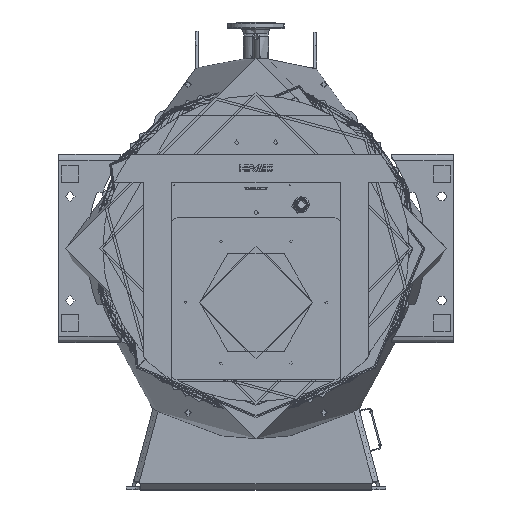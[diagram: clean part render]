
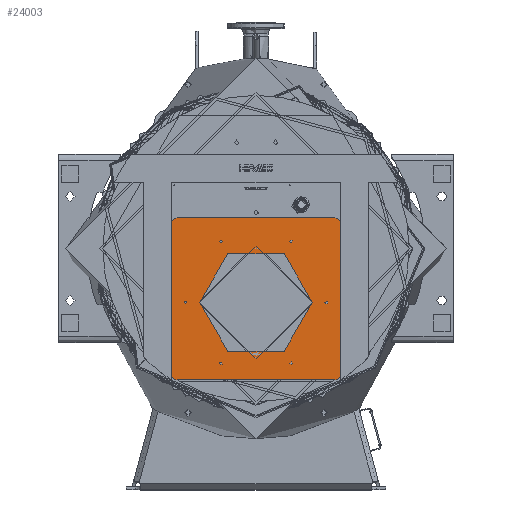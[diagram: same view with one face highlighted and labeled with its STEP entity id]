
A CAD part, top view. The second image highlights one B-rep face of the part: STEP entity #24003.
In plain terms, the highlighted planar face has unit normal (0, 0, 1).
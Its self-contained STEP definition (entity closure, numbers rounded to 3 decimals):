
#23424=CARTESIAN_POINT('',(-119.945,25.006,305.));
#23425=VERTEX_POINT('',#23424);
#23449=CARTESIAN_POINT('',(-130.055,25.006,305.));
#23450=VERTEX_POINT('',#23449);
#23451=CARTESIAN_POINT('',(-125.,25.006,305.));
#23452=DIRECTION('',(0.,0.,-1.));
#23453=DIRECTION('',(-1.,0.,0.));
#23454=AXIS2_PLACEMENT_3D('',#23451,#23452,#23453);
#23455=CIRCLE('',#23454,5.055);
#23456=EDGE_CURVE('',#23450,#23425,#23455,.T.);
#23458=CARTESIAN_POINT('',(-125.,25.006,305.));
#23459=DIRECTION('',(0.,0.,-1.));
#23460=DIRECTION('',(-1.,0.,0.));
#23461=AXIS2_PLACEMENT_3D('',#23458,#23459,#23460);
#23462=CIRCLE('',#23461,5.055);
#23463=EDGE_CURVE('',#23425,#23450,#23462,.T.);
#23475=CARTESIAN_POINT('',(127.528,20.629,305.));
#23476=VERTEX_POINT('',#23475);
#23500=CARTESIAN_POINT('',(119.945,25.006,305.));
#23501=VERTEX_POINT('',#23500);
#23502=CARTESIAN_POINT('',(125.,25.006,305.));
#23503=DIRECTION('',(0.,0.,-1.));
#23504=DIRECTION('',(-1.,0.,0.));
#23505=AXIS2_PLACEMENT_3D('',#23502,#23503,#23504);
#23506=CIRCLE('',#23505,5.055);
#23507=EDGE_CURVE('',#23501,#23476,#23506,.T.);
#23509=CARTESIAN_POINT('',(125.,25.006,305.));
#23510=DIRECTION('',(0.,0.,-1.));
#23511=DIRECTION('',(-1.,0.,0.));
#23512=AXIS2_PLACEMENT_3D('',#23509,#23510,#23511);
#23513=CIRCLE('',#23512,5.055);
#23514=EDGE_CURVE('',#23476,#23501,#23513,.T.);
#23526=CARTESIAN_POINT('',(247.473,-195.878,305.));
#23527=VERTEX_POINT('',#23526);
#23551=CARTESIAN_POINT('',(244.945,-191.5,305.));
#23552=VERTEX_POINT('',#23551);
#23553=CARTESIAN_POINT('',(250.,-191.5,305.));
#23554=DIRECTION('',(0.,0.,-1.));
#23555=DIRECTION('',(-1.,0.,0.));
#23556=AXIS2_PLACEMENT_3D('',#23553,#23554,#23555);
#23557=CIRCLE('',#23556,5.055);
#23558=EDGE_CURVE('',#23552,#23527,#23557,.T.);
#23560=CARTESIAN_POINT('',(250.,-191.5,305.));
#23561=DIRECTION('',(0.,0.,-1.));
#23562=DIRECTION('',(-1.,0.,0.));
#23563=AXIS2_PLACEMENT_3D('',#23560,#23561,#23562);
#23564=CIRCLE('',#23563,5.055);
#23565=EDGE_CURVE('',#23527,#23552,#23564,.T.);
#23577=CARTESIAN_POINT('',(119.945,-408.006,305.));
#23578=VERTEX_POINT('',#23577);
#23593=CARTESIAN_POINT('',(125.,-408.006,305.));
#23594=DIRECTION('',(0.,0.,-1.));
#23595=DIRECTION('',(-1.,0.,0.));
#23596=AXIS2_PLACEMENT_3D('',#23593,#23594,#23595);
#23597=CIRCLE('',#23596,5.055);
#23598=EDGE_CURVE('',#23578,#23578,#23597,.T.);
#23610=CARTESIAN_POINT('',(-127.528,-403.629,305.));
#23611=VERTEX_POINT('',#23610);
#23635=CARTESIAN_POINT('',(-130.055,-408.006,305.));
#23636=VERTEX_POINT('',#23635);
#23637=CARTESIAN_POINT('',(-125.,-408.006,305.));
#23638=DIRECTION('',(0.,0.,-1.));
#23639=DIRECTION('',(-1.,0.,0.));
#23640=AXIS2_PLACEMENT_3D('',#23637,#23638,#23639);
#23641=CIRCLE('',#23640,5.055);
#23642=EDGE_CURVE('',#23636,#23611,#23641,.T.);
#23644=CARTESIAN_POINT('',(-125.,-408.006,305.));
#23645=DIRECTION('',(0.,0.,-1.));
#23646=DIRECTION('',(-1.,0.,0.));
#23647=AXIS2_PLACEMENT_3D('',#23644,#23645,#23646);
#23648=CIRCLE('',#23647,5.055);
#23649=EDGE_CURVE('',#23611,#23636,#23648,.T.);
#23661=CARTESIAN_POINT('',(-247.473,-187.122,305.));
#23662=VERTEX_POINT('',#23661);
#23686=CARTESIAN_POINT('',(-255.055,-191.5,305.));
#23687=VERTEX_POINT('',#23686);
#23688=CARTESIAN_POINT('',(-250.,-191.5,305.));
#23689=DIRECTION('',(0.,0.,-1.));
#23690=DIRECTION('',(-1.,0.,0.));
#23691=AXIS2_PLACEMENT_3D('',#23688,#23689,#23690);
#23692=CIRCLE('',#23691,5.055);
#23693=EDGE_CURVE('',#23687,#23662,#23692,.T.);
#23695=CARTESIAN_POINT('',(-250.,-191.5,305.));
#23696=DIRECTION('',(0.,0.,-1.));
#23697=DIRECTION('',(-1.,0.,0.));
#23698=AXIS2_PLACEMENT_3D('',#23695,#23696,#23697);
#23699=CIRCLE('',#23698,5.055);
#23700=EDGE_CURVE('',#23662,#23687,#23699,.T.);
#23712=CARTESIAN_POINT('',(280.,-466.5,305.));
#23713=VERTEX_POINT('',#23712);
#23720=CARTESIAN_POINT('',(-280.,-466.5,305.));
#23721=VERTEX_POINT('',#23720);
#23722=CARTESIAN_POINT('',(280.,-466.5,305.));
#23723=DIRECTION('',(-1.,-0.,0.));
#23724=VECTOR('',#23723,560.);
#23725=LINE('',#23722,#23724);
#23726=EDGE_CURVE('',#23713,#23721,#23725,.T.);
#23760=CARTESIAN_POINT('',(-300.,-446.5,305.));
#23761=VERTEX_POINT('',#23760);
#23762=CARTESIAN_POINT('',(-280.,-446.5,305.));
#23763=DIRECTION('',(0.,0.,1.));
#23764=DIRECTION('',(1.,0.,-0.));
#23765=AXIS2_PLACEMENT_3D('',#23762,#23763,#23764);
#23766=CIRCLE('',#23765,20.);
#23767=EDGE_CURVE('',#23761,#23721,#23766,.T.);
#23784=CARTESIAN_POINT('',(-300.,88.5,305.));
#23785=VERTEX_POINT('',#23784);
#23786=CARTESIAN_POINT('',(-300.,-446.5,305.));
#23787=DIRECTION('',(-0.,1.,-0.));
#23788=VECTOR('',#23787,535.);
#23789=LINE('',#23786,#23788);
#23790=EDGE_CURVE('',#23761,#23785,#23789,.T.);
#23825=CARTESIAN_POINT('',(-280.,108.5,305.));
#23826=VERTEX_POINT('',#23825);
#23827=CARTESIAN_POINT('',(-280.,88.5,305.));
#23828=DIRECTION('',(0.,0.,1.));
#23829=DIRECTION('',(1.,0.,-0.));
#23830=AXIS2_PLACEMENT_3D('',#23827,#23828,#23829);
#23831=CIRCLE('',#23830,20.);
#23832=EDGE_CURVE('',#23826,#23785,#23831,.T.);
#23848=CARTESIAN_POINT('',(280.,108.5,305.));
#23849=VERTEX_POINT('',#23848);
#23865=CARTESIAN_POINT('',(-280.,108.5,305.));
#23866=DIRECTION('',(1.,-0.,-0.));
#23867=VECTOR('',#23866,560.);
#23868=LINE('',#23865,#23867);
#23869=EDGE_CURVE('',#23826,#23849,#23868,.T.);
#23889=CARTESIAN_POINT('',(300.,88.5,305.));
#23890=VERTEX_POINT('',#23889);
#23891=CARTESIAN_POINT('',(280.,88.5,305.));
#23892=DIRECTION('',(0.,0.,1.));
#23893=DIRECTION('',(1.,0.,-0.));
#23894=AXIS2_PLACEMENT_3D('',#23891,#23892,#23893);
#23895=CIRCLE('',#23894,20.);
#23896=EDGE_CURVE('',#23890,#23849,#23895,.T.);
#23912=CARTESIAN_POINT('',(300.,-446.5,305.));
#23913=VERTEX_POINT('',#23912);
#23929=CARTESIAN_POINT('',(300.,88.5,305.));
#23930=DIRECTION('',(-0.,-1.,-0.));
#23931=VECTOR('',#23930,535.);
#23932=LINE('',#23929,#23931);
#23933=EDGE_CURVE('',#23890,#23913,#23932,.T.);
#23939=CARTESIAN_POINT('',(-330.,-521.5,305.));
#23940=DIRECTION('',(0.,0.,1.));
#23941=DIRECTION('',(1.,0.,0.));
#23942=AXIS2_PLACEMENT_3D('',#23939,#23940,#23941);
#23943=PLANE('',#23942);
#23944=ORIENTED_EDGE('',*,*,#23456,.T.);
#23945=ORIENTED_EDGE('',*,*,#23463,.T.);
#23946=EDGE_LOOP('',(#23944,#23945));
#23947=FACE_BOUND('',#23946,.T.);
#23948=CARTESIAN_POINT('',(200.,-191.5,305.));
#23949=VERTEX_POINT('',#23948);
#23950=CARTESIAN_POINT('',(-200.,-191.5,305.));
#23951=VERTEX_POINT('',#23950);
#23952=CARTESIAN_POINT('',(0.,-191.5,305.));
#23953=DIRECTION('',(-0.,-0.,1.));
#23954=DIRECTION('',(-1.,0.,0.));
#23955=AXIS2_PLACEMENT_3D('',#23952,#23953,#23954);
#23956=CIRCLE('',#23955,200.);
#23957=EDGE_CURVE('',#23949,#23951,#23956,.T.);
#23958=ORIENTED_EDGE('',*,*,#23957,.F.);
#23959=CARTESIAN_POINT('',(0.,-191.5,305.));
#23960=DIRECTION('',(-0.,-0.,1.));
#23961=DIRECTION('',(-1.,0.,0.));
#23962=AXIS2_PLACEMENT_3D('',#23959,#23960,#23961);
#23963=CIRCLE('',#23962,200.);
#23964=EDGE_CURVE('',#23951,#23949,#23963,.T.);
#23965=ORIENTED_EDGE('',*,*,#23964,.F.);
#23966=EDGE_LOOP('',(#23958,#23965));
#23967=FACE_BOUND('',#23966,.T.);
#23968=ORIENTED_EDGE('',*,*,#23507,.T.);
#23969=ORIENTED_EDGE('',*,*,#23514,.T.);
#23970=EDGE_LOOP('',(#23968,#23969));
#23971=FACE_BOUND('',#23970,.T.);
#23972=ORIENTED_EDGE('',*,*,#23558,.T.);
#23973=ORIENTED_EDGE('',*,*,#23565,.T.);
#23974=EDGE_LOOP('',(#23972,#23973));
#23975=FACE_BOUND('',#23974,.T.);
#23976=ORIENTED_EDGE('',*,*,#23598,.T.);
#23977=EDGE_LOOP('',(#23976));
#23978=FACE_BOUND('',#23977,.T.);
#23979=ORIENTED_EDGE('',*,*,#23642,.T.);
#23980=ORIENTED_EDGE('',*,*,#23649,.T.);
#23981=EDGE_LOOP('',(#23979,#23980));
#23982=FACE_BOUND('',#23981,.T.);
#23983=ORIENTED_EDGE('',*,*,#23693,.T.);
#23984=ORIENTED_EDGE('',*,*,#23700,.T.);
#23985=EDGE_LOOP('',(#23983,#23984));
#23986=FACE_BOUND('',#23985,.T.);
#23987=CARTESIAN_POINT('',(280.,-446.5,305.));
#23988=DIRECTION('',(-0.,-0.,1.));
#23989=DIRECTION('',(-1.,0.,0.));
#23990=AXIS2_PLACEMENT_3D('',#23987,#23988,#23989);
#23991=CIRCLE('',#23990,20.);
#23992=EDGE_CURVE('',#23713,#23913,#23991,.T.);
#23993=ORIENTED_EDGE('',*,*,#23992,.T.);
#23994=ORIENTED_EDGE('',*,*,#23933,.F.);
#23995=ORIENTED_EDGE('',*,*,#23896,.T.);
#23996=ORIENTED_EDGE('',*,*,#23869,.F.);
#23997=ORIENTED_EDGE('',*,*,#23832,.T.);
#23998=ORIENTED_EDGE('',*,*,#23790,.F.);
#23999=ORIENTED_EDGE('',*,*,#23767,.T.);
#24000=ORIENTED_EDGE('',*,*,#23726,.F.);
#24001=EDGE_LOOP('',(#23993,#23994,#23995,#23996,#23997,#23998,#23999,#24000));
#24002=FACE_BOUND('',#24001,.T.);
#24003=ADVANCED_FACE('',(#23947,#23967,#23971,#23975,#23978,#23982,#23986,#24002),#23943,.T.);
